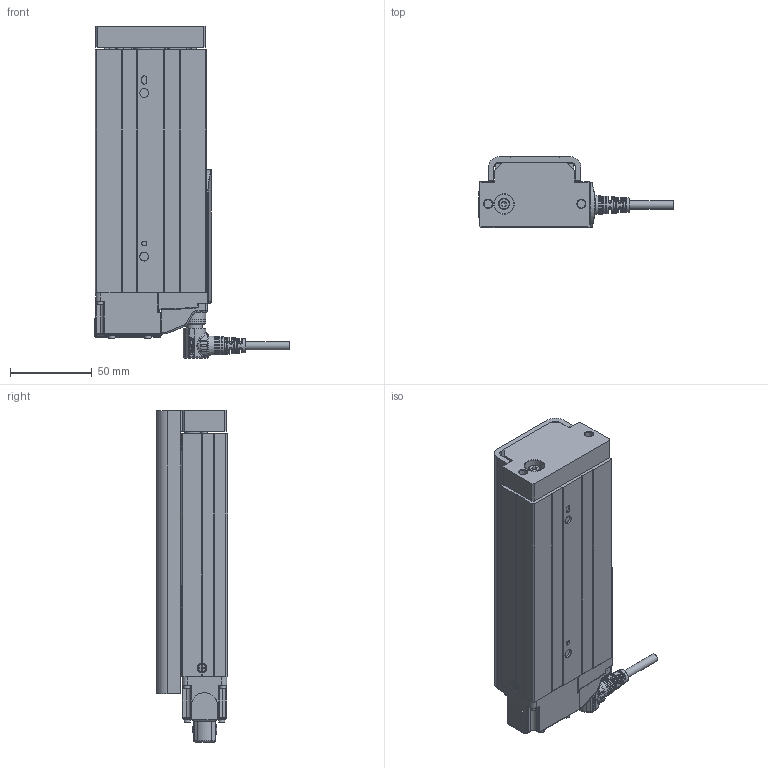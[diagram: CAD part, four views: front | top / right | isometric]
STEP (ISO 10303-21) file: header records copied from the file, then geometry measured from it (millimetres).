
FILE_DESCRIPTION(/* description */ ('STEP AP203'),/* implementation_level */ '2;1');
FILE_NAME(/* name */ 'D:\暫\2025.02.06 CSG 3D\CSG25-B\CSG25-S100-B-WL.stp',/* time_stamp */ '2025-02-08T10:41:12+08:00',/* author */ ('T10033'),/* organization */ (''),/* preprocessor_version */ 'ST-DEVELOPER v18.1',/* originating_system */ 'Autodesk Inventor 2020',/* authorisation */ '');
FILE_SCHEMA (('CONFIG_CONTROL_DESIGN'));
Products named in the file (25): CSG25-50行程-煞車; ©T©wªO-·¥­­¾×ª
O4-M2¤ú; M12 -14PIN  ªOºÝ-²Ä¤@ºØ
³W®æ; countersunk flat head cross recess screw_iso_ISO 7046-1 - M2.5 x 4 - 
Z - 4N; ¶ì½¦ºÝ»-L¼Ë¦¡(TOYO)-°
t¦XPCB(·Ù¨®¥Î)-DF3±µÀYª½
±µ©ñ¤Jª©; IS 2269 - M2 x 10; ISO 4762 - M2.5 x 6ISO; PCB; 43T34 TFSDR_Shrinkwrap_1; M12-14PIN 線端90度接頭-05中繼線; 4T3T6WS34TE35Y; countersunk flat head cross recess screw_iso_ISO 7046-1 - M2.5 x 4 - 
Z - 4N_1; ©T©wªO-·¥­­¾×ª
O4-M2¤ú_1; socket head cap screw_iso_ISO 4762 M2.5 x 6 - 6N; socket head cap screw_iso_ISO 4762 M2.5 x 8 - 8N; socket head cap screw_iso_ISO 4762 M2 x 12 - 12N; M12 -14PIN  ªOºÝ-²Ä¤@ºØ
³W®æ_1; CSG25-50¥»Åé3ª©-ªo¤Õ
½Õ¾ã¨¤«×; CSG25-Carriage-newtype; Solid1-2; socket head cap screw_iso_ISO 4762 M2.5 x 5 - 5N; 12003-000221-­×§ï; 22024-000496; CNS 3932 - M 4 x 0.7 x 12; CNS 4558 - M5 x 0.8 x 12
Assembly tree (36 placements, depth 3):
  CSG25-50行程-煞車
    ©T©wªO-·¥­­¾×ª
O4-M2¤ú
    M12 -14PIN  ªOºÝ-²Ä¤@ºØ
³W®æ
    countersunk flat head cross recess screw_iso_ISO 7046-1 - M2.5 x 4 - 
Z - 4N
    ¶ì½¦ºÝ»-L¼Ë¦¡(TOYO)-°
t¦XPCB(·Ù¨®¥Î)-DF3±µÀYª½
±µ©ñ¤Jª©
    IS 2269 - M2 x 10  x2
    ISO 4762 - M2.5 x 6ISO  x2
    PCB
    43T34 TFSDR_Shrinkwrap_1
    M12-14PIN 線端90度接頭-05中繼線
    4T3T6WS34TE35Y
      socket head cap screw_iso_ISO 4762 M2.5 x 8 - 8N  x8
      countersunk flat head cross recess screw_iso_ISO 7046-1 - M2.5 x 4 - 
Z - 4N_1
      ©T©wªO-·¥­­¾×ª
O4-M2¤ú_1
      socket head cap screw_iso_ISO 4762 M2.5 x 6 - 6N  x2
      socket head cap screw_iso_ISO 4762 M2 x 12 - 12N  x2
      M12 -14PIN  ªOºÝ-²Ä¤@ºØ
³W®æ_1
      CSG25-50¥»Åé3ª©-ªo¤Õ
½Õ¾ã¨¤«×
      CSG25-Carriage-newtype
      Solid1-2
      socket head cap screw_iso_ISO 4762 M2.5 x 5 - 5N
      12003-000221-­×§ï
      22024-000496
      CNS 3932 - M 4 x 0.7 x 12
      CNS 4558 - M5 x 0.8 x 12  x2
Bounding box: 119 x 43.5 x 203 mm (x, y, z)
Volume: 429038.9 mm3; surface area: 108884.7 mm2
Topology: 50 solids, 58 shells, 3187 faces, 8672 edges, 5730 vertices
Faces by surface type: plane 1589, cylinder 626, bspline 482, cone 334, torus 146, sphere 10
Full cylindrical faces by diameter (mm): 0.6 x28, 0.65 x14, 1 x14, 1.567 x1, 1.6 x4, 2 x6, 2.05 x5, 2.5 x19, 2.9 x2, 3 x3, 3.8 x10, 4 x1, 4.134 x8, 4.5 x15, 4.7 x2, 5 x7, 5.3 x2, 5.4 x4, 5.5 x4, 6 x3, 7 x1, 8 x1, 8.9 x1, 9 x12, 9.5 x2, 9.6 x1, 10 x6, 10.4 x2, 10.5 x4, 10.9 x1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
Entity records: 121534 total; most frequent: CARTESIAN_POINT 44664, ORIENTED_EDGE 16076, DIRECTION 14901, EDGE_CURVE 8056, AXIS2_PLACEMENT_3D 5399, VERTEX_POINT 5351, LINE 4103, VECTOR 4103
